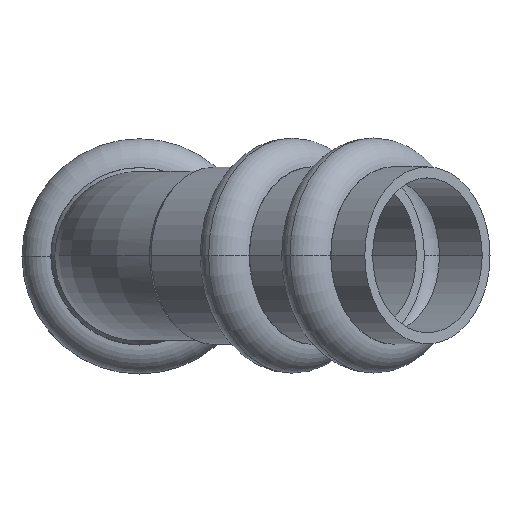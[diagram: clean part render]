
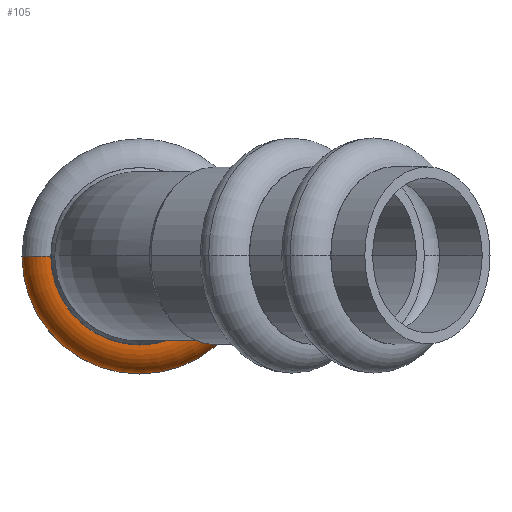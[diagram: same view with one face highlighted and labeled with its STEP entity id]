
A CAD part, top view. The second image highlights one B-rep face of the part: STEP entity #105.
In plain terms, the highlighted toroidal (fillet/blend) face has major radius 9.25 mm and minor radius 3 mm.
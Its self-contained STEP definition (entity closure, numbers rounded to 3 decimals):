
#105=ADVANCED_FACE('',(#274),#275,.T.);
#274=FACE_OUTER_BOUND('',#522,.T.);
#275=TOROIDAL_SURFACE('',#523,9.25,3.);
#522=EDGE_LOOP('',(#779,#780,#781,#782));
#523=AXIS2_PLACEMENT_3D('',#783,#784,#785);
#779=ORIENTED_EDGE('',*,*,#1363,.F.);
#780=ORIENTED_EDGE('',*,*,#1364,.T.);
#781=ORIENTED_EDGE('',*,*,#1365,.T.);
#782=ORIENTED_EDGE('',*,*,#1366,.T.);
#783=CARTESIAN_POINT('',(0.,0.0,20.));
#784=DIRECTION('',(0.,0.0,-1.0));
#785=DIRECTION('',(-1.0,0.0,0.));
#1363=EDGE_CURVE('',#1598,#1599,#1600,.T.);
#1364=EDGE_CURVE('',#1598,#1601,#1602,.T.);
#1365=EDGE_CURVE('',#1601,#1603,#1604,.T.);
#1366=EDGE_CURVE('',#1603,#1599,#1605,.T.);
#1598=VERTEX_POINT('',#2051);
#1599=VERTEX_POINT('',#2052);
#1600=CIRCLE('',#2053,12.25);
#1601=VERTEX_POINT('',#2054);
#1602=CIRCLE('',#2055,3.);
#1603=VERTEX_POINT('',#2056);
#1604=CIRCLE('',#2057,9.25);
#1605=CIRCLE('',#2058,3.);
#2051=CARTESIAN_POINT('',(12.25,0.,20.));
#2052=CARTESIAN_POINT('',(-12.25,0.,20.));
#2053=AXIS2_PLACEMENT_3D('',#2534,#2535,#2536);
#2054=CARTESIAN_POINT('',(9.25,0.,23.));
#2055=AXIS2_PLACEMENT_3D('',#2537,#2538,#2539);
#2056=CARTESIAN_POINT('',(-9.25,0.,23.));
#2057=AXIS2_PLACEMENT_3D('',#2540,#2541,#2542);
#2058=AXIS2_PLACEMENT_3D('',#2543,#2544,#2545);
#2534=CARTESIAN_POINT('',(0.,0.0,20.));
#2535=DIRECTION('',(0.,0.0,-1.0));
#2536=DIRECTION('',(-1.0,0.0,0.));
#2537=CARTESIAN_POINT('',(9.25,0.,20.));
#2538=DIRECTION('',(0.,-1.0,0.));
#2539=DIRECTION('',(1.0,0.,0.));
#2540=CARTESIAN_POINT('',(0.,0.0,23.));
#2541=DIRECTION('',(0.,0.0,-1.0));
#2542=DIRECTION('',(1.0,0.0,0.));
#2543=CARTESIAN_POINT('',(-9.25,0.,20.));
#2544=DIRECTION('',(0.,-1.0,0.));
#2545=DIRECTION('',(-1.0,0.,0.));
